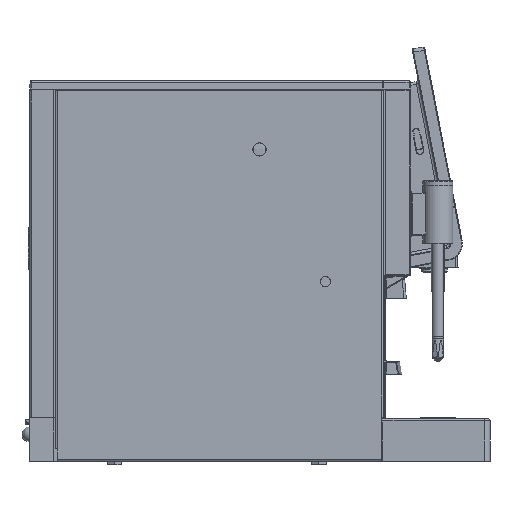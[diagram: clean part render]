
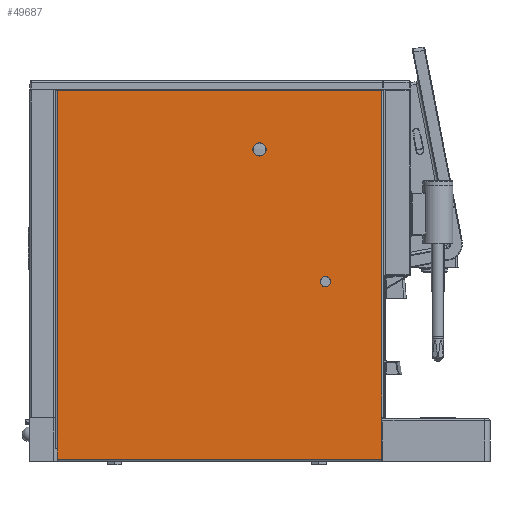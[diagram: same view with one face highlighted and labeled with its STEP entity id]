
A CAD part, left-side view. The second image highlights one B-rep face of the part: STEP entity #49687.
In plain terms, the highlighted planar face has unit normal (-1, 0, 0).
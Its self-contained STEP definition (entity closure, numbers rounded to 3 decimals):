
#6951=LINE('',#111594,#10358);
#6952=LINE('',#111597,#10359);
#6956=LINE('',#111612,#10363);
#6982=LINE('',#111691,#10389);
#7010=LINE('',#111780,#10417);
#7011=LINE('',#111782,#10418);
#10358=VECTOR('',#67719,388.85);
#10359=VECTOR('',#67724,429.1);
#10363=VECTOR('',#67742,391.);
#10389=VECTOR('',#67844,12.9);
#10417=VECTOR('',#67954,388.85);
#10418=VECTOR('',#67957,51.);
#11618=PLANE('',#54712);
#12133=FACE_BOUND('',#18368,.T.);
#12134=FACE_BOUND('',#18369,.T.);
#15010=FACE_OUTER_BOUND('',#18367,.T.);
#18367=EDGE_LOOP('',(#45875,#45876,#45877,#45878,#45879,#45880));
#18368=EDGE_LOOP('',(#45881));
#18369=EDGE_LOOP('',(#45882));
#20250=CIRCLE('',#54627,6.);
#20251=CIRCLE('',#54629,8.);
#24632=VERTEX_POINT('',#111512);
#24648=VERTEX_POINT('',#111591);
#24649=VERTEX_POINT('',#111593);
#24650=VERTEX_POINT('',#111599);
#24651=VERTEX_POINT('',#111602);
#24653=VERTEX_POINT('',#111611);
#24668=VERTEX_POINT('',#111689);
#24688=VERTEX_POINT('',#111778);
#31756=EDGE_CURVE('',#24649,#24648,#6951,.T.);
#31758=EDGE_CURVE('',#24632,#24648,#6952,.T.);
#31759=EDGE_CURVE('',#24650,#24650,#20250,.T.);
#31760=EDGE_CURVE('',#24651,#24651,#20251,.T.);
#31764=EDGE_CURVE('',#24649,#24653,#6956,.T.);
#31803=EDGE_CURVE('',#24632,#24668,#6982,.T.);
#31848=EDGE_CURVE('',#24688,#24668,#7010,.T.);
#31849=EDGE_CURVE('',#24688,#24653,#7011,.T.);
#45875=ORIENTED_EDGE('',*,*,#31758,.F.);
#45876=ORIENTED_EDGE('',*,*,#31803,.T.);
#45877=ORIENTED_EDGE('',*,*,#31848,.F.);
#45878=ORIENTED_EDGE('',*,*,#31849,.T.);
#45879=ORIENTED_EDGE('',*,*,#31764,.F.);
#45880=ORIENTED_EDGE('',*,*,#31756,.T.);
#45881=ORIENTED_EDGE('',*,*,#31760,.T.);
#45882=ORIENTED_EDGE('',*,*,#31759,.T.);
#49687=ADVANCED_FACE('',(#15010,#12133,#12134),#11618,.F.);
#54627=AXIS2_PLACEMENT_3D('',#111600,#67727,#67728);
#54629=AXIS2_PLACEMENT_3D('',#111603,#67731,#67732);
#54712=AXIS2_PLACEMENT_3D('',#111781,#67955,#67956);
#67719=DIRECTION('',(0.,1.,0.));
#67724=DIRECTION('',(0.,0.,1.));
#67727=DIRECTION('center_axis',(1.,0.,0.));
#67728=DIRECTION('ref_axis',(0.,0.,-1.));
#67731=DIRECTION('center_axis',(1.,0.,0.));
#67732=DIRECTION('ref_axis',(0.,-1.,0.));
#67742=DIRECTION('',(0.,0.,-1.));
#67844=DIRECTION('',(0.,0.,-1.));
#67954=DIRECTION('',(0.,1.,0.));
#67955=DIRECTION('center_axis',(1.,0.,0.));
#67956=DIRECTION('ref_axis',(0.,0.,-1.));
#67957=DIRECTION('',(0.,0.,1.));
#111512=CARTESIAN_POINT('',(-162.5,518.85,19.4));
#111591=CARTESIAN_POINT('',(-162.5,518.85,448.5));
#111593=CARTESIAN_POINT('',(-162.5,130.,448.5));
#111594=CARTESIAN_POINT('',(-162.5,129.,448.5));
#111597=CARTESIAN_POINT('',(-162.5,518.85,115.106));
#111599=CARTESIAN_POINT('',(-162.5,197.2,225.7));
#111600=CARTESIAN_POINT('Origin',(-162.5,197.2,219.7));
#111602=CARTESIAN_POINT('',(-162.5,268.25,378.2));
#111603=CARTESIAN_POINT('Origin',(-162.5,276.25,378.2));
#111611=CARTESIAN_POINT('',(-162.5,130.,57.5));
#111612=CARTESIAN_POINT('',(-162.5,130.,218.876));
#111689=CARTESIAN_POINT('',(-162.5,518.85,6.5));
#111691=CARTESIAN_POINT('',(-162.5,518.85,107.656));
#111778=CARTESIAN_POINT('',(-162.5,130.,6.5));
#111780=CARTESIAN_POINT('',(-162.5,145.76,6.5));
#111781=CARTESIAN_POINT('Origin',(-162.5,291.52,210.811));
#111782=CARTESIAN_POINT('',(-162.5,130.,133.156));
